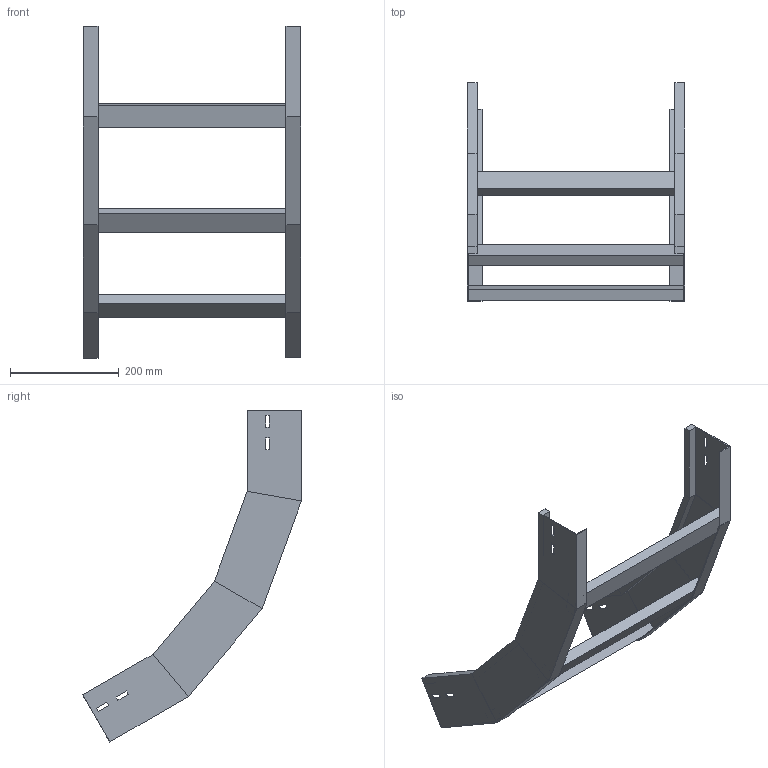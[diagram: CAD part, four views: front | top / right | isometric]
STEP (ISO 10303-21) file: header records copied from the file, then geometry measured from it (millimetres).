
FILE_DESCRIPTION (( 'STEP AP214' ), '1' );
FILE_NAME ('A2X40B5D400XX.step', '2025-03-20T10:12:08', ( '' ), ( '' ), 'SwSTEP 2.0', 'SolidWorks 2023', '' );
FILE_SCHEMA (( 'AUTOMOTIVE_DESIGN' ));
Length unit declared in the file: millimetre
Products named in the file (3): LONGH.SALITA_60°_H100_R500; A2X40B5D400XX; TRAVERSINO_400
Assembly tree (5 placements, depth 2):
  A2X40B5D400XX
    LONGH.SALITA_60°_H100_R500  x2
    TRAVERSINO_400  x3
Bounding box: 400 x 402.87 x 611.18 mm (x, y, z)
Volume: 1569550.8 mm3; surface area: 553791.1 mm2
Topology: 5 solids, 5 shells, 118 faces, 276 edges, 168 vertices
Faces by surface type: plane 118
Entity records: 1672 total; most frequent: CARTESIAN_POINT 276, ORIENTED_EDGE 264, DIRECTION 260, VECTOR 132, EDGE_CURVE 132, LINE 132, VERTEX_POINT 80, EDGE_LOOP 64
